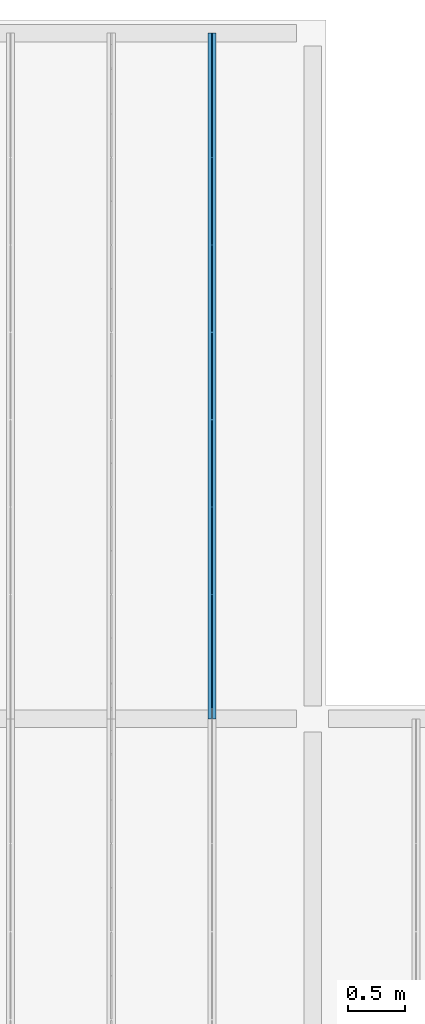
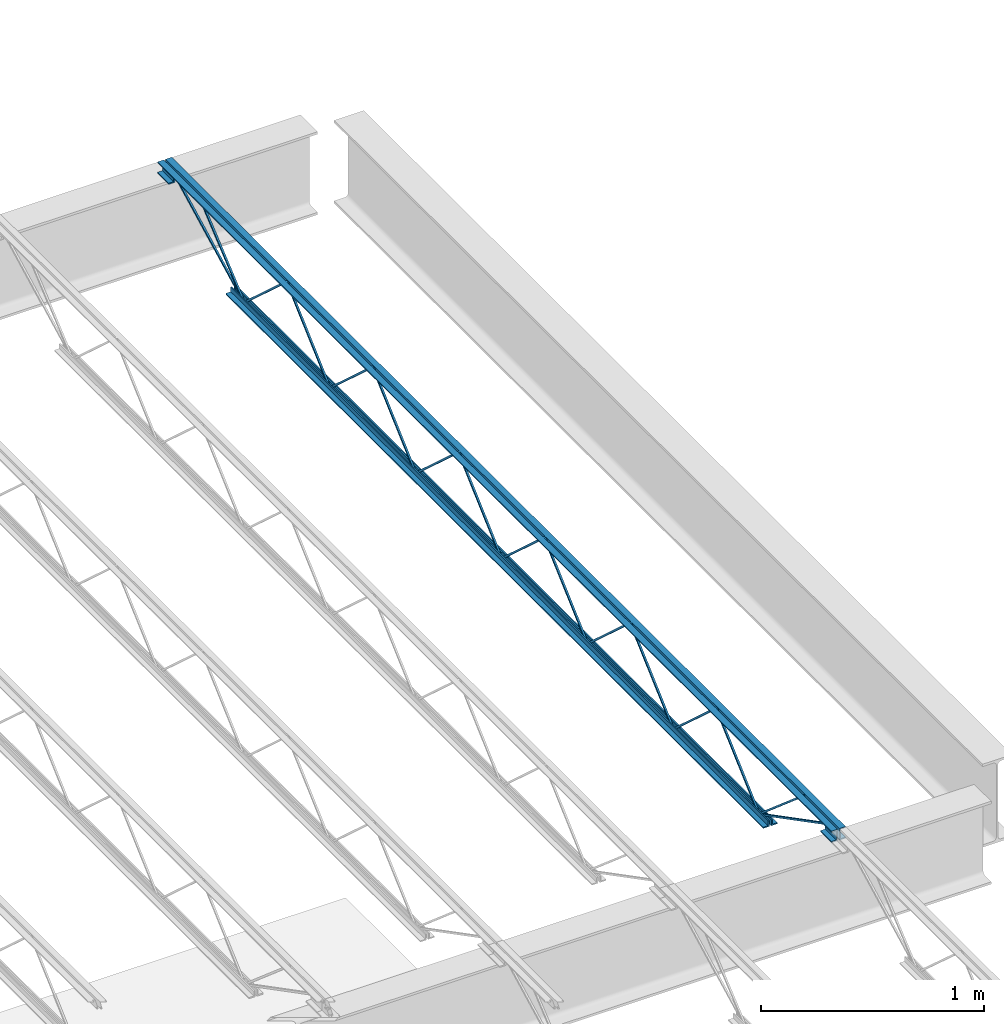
# One storey, part 55 of 75: 1 beam.
"""IFC2X3 building model written with IfcOpenShell, lengths in metres."""

from ifc_helpers import new_model, entity, si_unit, converted_unit, frame, origin, place, context, project, spatial, face_set, surface_model, element, save


model = new_model("IFC2X3")

# Units and contexts
model_context = context("Model", 3, precision=1e-09, world=origin())
plan_context = context("Plan", 3, precision=1e-09, world=origin())
ifc_project = project(units=[si_unit("LENGTHUNIT", "METRE"), si_unit("AREAUNIT", "SQUARE_METRE"), si_unit("VOLUMEUNIT", "CUBIC_METRE"), converted_unit("PLANEANGLEUNIT", "DEGREE", entity("IfcRatioMeasure", 0.01745329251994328), si_unit("PLANEANGLEUNIT", "RADIAN"), dimensions=[0, 0, 0, 0, 0, 0, 0]), si_unit("TIMEUNIT", "SECOND")], contexts=[model_context, plan_context])

# Site, building, storey
site_placement = place(None, origin())
site = spatial("IfcSite", under=ifc_project, at=site_placement, Name="Default", CompositionType="ELEMENT")
building_placement = place(site_placement, origin())
building = spatial("IfcBuilding", under=site, at=building_placement, CompositionType="ELEMENT")
storey_placement = place(building_placement, origin())
storey = spatial("IfcBuildingStorey", under=building, at=storey_placement, Name="First Floor", CompositionType="ELEMENT", Elevation=-3.531500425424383e-13)

# Beam
beam_placement = place(storey_placement, frame((-27.36549999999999, 50.09, 4.112000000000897), z_axis=(0.0, 0.0, 1.0), x_axis=(-1.0, 0.0, 0.0)))
element("IfcBeam", 1, at=beam_placement, inside=storey, Name="M_K-Series Bar Joist-Rod Web:14K1:14K1", ObjectType="M_K-Series Bar Joist-Rod Web:14K1", context=model_context, shape_type="SurfaceModel", body=[
    surface_model("IfcFaceBasedSurfaceModel", [(-0.03200000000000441, -2.254000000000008, 0.01110000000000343), (-0.04150000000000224, -2.254000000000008, 0.01110000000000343), (-0.04150000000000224, -2.254000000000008, 0.001600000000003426), (-0.03200000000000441, -2.254000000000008, 0.001600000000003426), (-0.04150000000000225, -2.252655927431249, 0.01110000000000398), (-0.03200000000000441, -2.252655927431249, 0.01110000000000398), (-0.04150000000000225, -2.248994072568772, 0.001600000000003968), (-0.04150000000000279, -1.869844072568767, 0.3449000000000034), (-0.0415000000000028, -1.86715592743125, 0.3449000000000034), (-0.04149999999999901, -1.48800592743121, 0.001600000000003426), (-0.04149999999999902, -1.483000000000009, 0.001600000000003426), (-0.04150000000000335, -1.483000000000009, 0.01110000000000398), (-0.04150000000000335, -1.484344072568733, 0.01110000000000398), (-0.04150000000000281, -1.863494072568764, 0.3544000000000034), (-0.04150000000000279, -1.873505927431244, 0.3544000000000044), (-0.03200000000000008, -2.248994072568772, 0.001600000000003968), (-0.03200000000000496, -1.869844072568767, 0.3449000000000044), (-0.03200000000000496, -1.86715592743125, 0.3449000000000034), (-0.0320000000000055, -1.48800592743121, 0.001600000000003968), (-0.03200000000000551, -1.483000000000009, 0.001600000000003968), (-0.03200000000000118, -1.483000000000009, 0.01110000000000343), (-0.03200000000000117, -1.484344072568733, 0.01110000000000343), (-0.03200000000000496, -1.863494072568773, 0.3544000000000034), (-0.03200000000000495, -1.873505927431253, 0.3544000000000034), (-0.0320000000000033, -3.025000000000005, 0.01110000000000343), (-0.04150000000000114, -3.025000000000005, 0.01110000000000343), (-0.04150000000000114, -3.025000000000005, 0.001600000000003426), (-0.0320000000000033, -3.025000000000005, 0.001600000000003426), (-0.04150000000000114, -3.023655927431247, 0.01110000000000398), (-0.0320000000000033, -3.023655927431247, 0.01110000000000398), (-0.04150000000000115, -3.01999407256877, 0.001600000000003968), (-0.04150000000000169, -2.640844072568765, 0.3449000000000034), (-0.04150000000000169, -2.638155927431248, 0.3449000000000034), (-0.04150000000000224, -2.259005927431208, 0.001600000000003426), (-0.04150000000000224, -2.254000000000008, 0.01110000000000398), (-0.04150000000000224, -2.255344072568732, 0.01110000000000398), (-0.0415000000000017, -2.634494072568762, 0.3544000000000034), (-0.04150000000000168, -2.644505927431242, 0.3544000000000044), (-0.03199999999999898, -3.01999407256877, 0.001600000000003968), (-0.03200000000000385, -2.640844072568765, 0.3449000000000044), (-0.03200000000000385, -2.638155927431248, 0.3449000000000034), (-0.03200000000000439, -2.259005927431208, 0.001600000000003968), (-0.03200000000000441, -2.254000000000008, 0.001600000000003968), (-0.0320000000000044, -2.255344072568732, 0.01110000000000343), (-0.03200000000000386, -2.634494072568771, 0.3544000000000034), (-0.03200000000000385, -2.644505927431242, 0.3544000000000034), (-0.03200000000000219, -3.796000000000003, 0.01110000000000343), (-0.04150000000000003, -3.796000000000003, 0.01110000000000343), (-0.04150000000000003, -3.796000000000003, 0.001600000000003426), (-0.03200000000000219, -3.796000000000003, 0.001600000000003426), (-0.04150000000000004, -3.794655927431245, 0.01110000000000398), (-0.03200000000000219, -3.794655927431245, 0.01110000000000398), (-0.04150000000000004, -3.790994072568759, 0.001600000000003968), (-0.04150000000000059, -3.411844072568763, 0.3449000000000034), (-0.04150000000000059, -3.409155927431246, 0.3449000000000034), (-0.04150000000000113, -3.030005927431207, 0.001600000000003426), (-0.04150000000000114, -3.025000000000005, 0.01110000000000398), (-0.04150000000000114, -3.026344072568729, 0.01110000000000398), (-0.0415000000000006, -3.40549407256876, 0.3544000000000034), (-0.04150000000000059, -3.41550592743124, 0.3544000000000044), (-0.03199999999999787, -3.790994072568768, 0.001600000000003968), (-0.03200000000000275, -3.411844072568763, 0.3449000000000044), (-0.03200000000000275, -3.409155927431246, 0.3449000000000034), (-0.03200000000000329, -3.030005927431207, 0.001600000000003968), (-0.0320000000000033, -3.025000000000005, 0.001600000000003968), (-0.0320000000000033, -3.026344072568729, 0.01110000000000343), (-0.03200000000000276, -3.40549407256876, 0.3544000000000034), (-0.03200000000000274, -3.41550592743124, 0.3544000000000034), (-0.03200000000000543, -4.567000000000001, 0.01110000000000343), (-0.04150000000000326, -4.567000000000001, 0.01110000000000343), (-0.04150000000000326, -4.567000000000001, 0.001600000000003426), (-0.03200000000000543, -4.567000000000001, 0.001600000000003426), (-0.04150000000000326, -4.565655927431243, 0.01110000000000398), (-0.03200000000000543, -4.565655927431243, 0.01110000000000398), (-0.04150000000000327, -4.561994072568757, 0.001600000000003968), (-0.04149999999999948, -4.182844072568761, 0.3449000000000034), (-0.04149999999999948, -4.180155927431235, 0.3449000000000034), (-0.04150000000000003, -3.801005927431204, 0.001600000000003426), (-0.04150000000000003, -3.795999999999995, 0.001600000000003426), (-0.04150000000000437, -3.796000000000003, 0.01110000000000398), (-0.04150000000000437, -3.797344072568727, 0.01110000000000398), (-0.04150000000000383, -4.176494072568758, 0.3544000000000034), (-0.04150000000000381, -4.186505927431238, 0.3544000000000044), (-0.0320000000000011, -4.561994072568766, 0.001600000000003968), (-0.03200000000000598, -4.182844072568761, 0.3449000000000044), (-0.03200000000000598, -4.180155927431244, 0.3449000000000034), (-0.03200000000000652, -3.801005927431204, 0.001600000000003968), (-0.03200000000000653, -3.796000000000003, 0.001600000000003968), (-0.03200000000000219, -3.795999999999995, 0.01110000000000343), (-0.03200000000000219, -3.797344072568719, 0.01110000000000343), (-0.03200000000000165, -4.176494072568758, 0.3544000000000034), (-0.03200000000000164, -4.186505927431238, 0.3544000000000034), (-0.03200000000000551, -1.483000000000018, 0.01109999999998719), (-0.04150000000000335, -1.483000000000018, 0.01109999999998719), (-0.04150000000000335, -1.483000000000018, 0.001599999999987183), (-0.03200000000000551, -1.483000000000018, 0.001599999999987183), (-0.04149999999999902, -1.48165592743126, 0.01109999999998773), (-0.03200000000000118, -1.48165592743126, 0.01109999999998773), (-0.04150000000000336, -1.477994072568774, 0.001599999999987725), (-0.0415000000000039, -1.098844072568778, 0.3448999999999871), (-0.0415000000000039, -1.096155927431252, 0.3448999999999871), (-0.04150000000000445, -0.717005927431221, 0.001599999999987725), (-0.04150000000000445, -0.7120000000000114, 0.001599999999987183), (-0.04150000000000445, -0.7120000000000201, 0.01109999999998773), (-0.04150000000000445, -0.713344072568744, 0.01109999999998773), (-0.04150000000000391, -1.092494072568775, 0.3543999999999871), (-0.04150000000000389, -1.102505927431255, 0.3543999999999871), (-0.03200000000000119, -1.477994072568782, 0.001599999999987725), (-0.03200000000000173, -1.098844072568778, 0.3448999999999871), (-0.03200000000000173, -1.09615592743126, 0.3448999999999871), (-0.03200000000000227, -0.717005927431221, 0.001599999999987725), (-0.03200000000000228, -0.7120000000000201, 0.001599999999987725), (-0.03200000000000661, -0.7120000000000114, 0.01109999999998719), (-0.03200000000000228, -0.7133440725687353, 0.01109999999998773), (-0.03200000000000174, -1.092494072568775, 0.3543999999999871), (-0.03200000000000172, -1.102505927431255, 0.3543999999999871), (-0.03200000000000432, -5.33799999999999, 0.01110000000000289), (-0.04150000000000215, -5.33799999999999, 0.01110000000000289), (-0.04150000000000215, -5.33799999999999, 0.001600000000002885), (-0.03200000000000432, -5.33799999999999, 0.001600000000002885), (-0.04150000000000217, -5.336655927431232, 0.01110000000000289), (-0.03200000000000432, -5.336655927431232, 0.01110000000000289), (-0.04150000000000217, -5.332994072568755, 0.001600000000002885), (-0.04150000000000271, -4.95384407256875, 0.3449000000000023), (-0.04150000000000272, -4.951155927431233, 0.3449000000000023), (-0.04150000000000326, -4.572005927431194, 0.001600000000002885), (-0.04150000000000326, -4.566999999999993, 0.001600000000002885), (-0.04150000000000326, -4.566999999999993, 0.01110000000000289), (-0.04150000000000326, -4.568344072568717, 0.01110000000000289), (-0.04150000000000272, -4.947494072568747, 0.3544000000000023), (-0.04150000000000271, -4.957505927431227, 0.3544000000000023), (-0.03199999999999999, -5.332994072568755, 0.001600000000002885), (-0.03200000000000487, -4.95384407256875, 0.3449000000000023), (-0.03200000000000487, -4.951155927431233, 0.3449000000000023), (-0.03200000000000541, -4.572005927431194, 0.001600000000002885), (-0.03200000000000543, -4.566999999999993, 0.001600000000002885), (-0.03200000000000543, -4.566999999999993, 0.01110000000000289), (-0.03200000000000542, -4.568344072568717, 0.01110000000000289), (-0.03200000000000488, -4.947494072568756, 0.3544000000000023), (-0.03200000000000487, -4.957505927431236, 0.3544000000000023), (-0.04150000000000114, 0.0, 0.3559999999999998), (-0.07350000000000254, 0.0, 0.3559999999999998), (-0.07350000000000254, 0.0, 0.349499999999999), (-0.04799999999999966, 0.0, 0.349499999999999), (-0.04799999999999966, 0.0, 0.3239999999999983), (-0.04150000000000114, 0.0, 0.3239999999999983), (-0.0320000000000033, 0.0, 0.3559999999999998), (-0.0320000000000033, 0.0, 0.3239999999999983), (-0.02550000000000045, 0.0, 0.3239999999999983), (-0.02550000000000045, 0.0, 0.349499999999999), (0.0, 0.0, 0.349499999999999), (0.0, 0.0, 0.3559999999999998), (-0.04150000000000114, -6.049999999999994, 0.3559999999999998), (-0.07350000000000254, -6.049999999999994, 0.3559999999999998), (-0.07350000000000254, -6.049999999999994, 0.349499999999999), (-0.04799999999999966, -6.049999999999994, 0.349499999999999), (-0.04799999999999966, -6.049999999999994, 0.3239999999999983), (-0.04150000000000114, -6.049999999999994, 0.3239999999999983), (-0.0320000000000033, -6.049999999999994, 0.3559999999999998), (-0.0320000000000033, -6.049999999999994, 0.3239999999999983), (-0.02550000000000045, -6.049999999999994, 0.3239999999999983), (-0.02550000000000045, -6.049999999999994, 0.349499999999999), (0.0, -6.049999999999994, 0.349499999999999), (0.0, -6.049999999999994, 0.3559999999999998), (-0.03200000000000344, -5.950000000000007, 0.2924999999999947), (0.0, -5.950000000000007, 0.2924999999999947), (0.0, -5.950000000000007, 0.2989999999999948), (-0.02550000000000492, -5.950000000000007, 0.2989999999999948), (-0.02550000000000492, -5.950000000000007, 0.3239999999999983), (-0.03200000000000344, -5.950000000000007, 0.3239999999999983), (-0.07350000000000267, -5.950000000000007, 0.2924999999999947), (-0.04150000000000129, -5.950000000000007, 0.2924999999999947), (-0.04150000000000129, -5.950000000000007, 0.3239999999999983), (-0.04800000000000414, -5.950000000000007, 0.3239999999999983), (-0.04800000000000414, -5.950000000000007, 0.2989999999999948), (-0.07350000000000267, -5.950000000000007, 0.2989999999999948), (-0.0320000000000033, -6.049999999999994, 0.2924999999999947), (0.0, -6.049999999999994, 0.2924999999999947), (0.0, -6.049999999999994, 0.2989999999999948), (-0.02550000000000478, -6.049999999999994, 0.2989999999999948), (-0.02550000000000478, -6.049999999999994, 0.3239999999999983), (-0.07350000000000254, -6.049999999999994, 0.2924999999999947), (-0.04150000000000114, -6.049999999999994, 0.2924999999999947), (-0.048000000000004, -6.049999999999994, 0.3239999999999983), (-0.048000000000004, -6.049999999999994, 0.2989999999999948), (-0.07350000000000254, -6.049999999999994, 0.2989999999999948), (-0.04150000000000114, 0.0, 0.2924999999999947), (-0.048000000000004, 0.0, 0.3239999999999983), (-0.048000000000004, 0.0, 0.2989999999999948), (-0.07350000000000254, 0.0, 0.2989999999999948), (-0.07350000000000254, 0.0, 0.2924999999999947), (-0.0320000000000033, 0.0, 0.2924999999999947), (0.0, 0.0, 0.2924999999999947), (0.0, 0.0, 0.2989999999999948), (-0.02550000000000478, 0.0, 0.2989999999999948), (-0.02550000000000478, 0.0, 0.3239999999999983), (-0.04150000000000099, -0.0999999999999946, 0.2924999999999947), (-0.04150000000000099, -0.0999999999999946, 0.3239999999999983), (-0.04800000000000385, -0.0999999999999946, 0.3239999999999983), (-0.04800000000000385, -0.0999999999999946, 0.2989999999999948), (-0.07350000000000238, -0.0999999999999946, 0.2989999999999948), (-0.07350000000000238, -0.0999999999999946, 0.2924999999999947), (-0.03200000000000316, -0.0999999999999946, 0.2924999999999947), (0.0, -0.0999999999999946, 0.2924999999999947), (0.0, -0.0999999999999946, 0.2989999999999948), (-0.02550000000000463, -0.0999999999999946, 0.2989999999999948), (-0.02550000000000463, -0.0999999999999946, 0.3239999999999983), (-0.03200000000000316, -0.0999999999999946, 0.3239999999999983), (-0.04150000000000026, -0.6119999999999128, 0.0), (-0.04150000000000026, -0.6119999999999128, 0.03199999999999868), (-0.04799999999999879, -0.6119999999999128, 0.03199999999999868), (-0.04799999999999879, -0.6119999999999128, 0.006499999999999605), (-0.07350000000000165, -0.6119999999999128, 0.006499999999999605), (-0.07350000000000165, -0.6119999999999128, 0.0), (-0.03200000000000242, -0.6119999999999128, 0.0), (0.0, -0.6119999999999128, 0.0), (0.0, -0.6119999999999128, 0.006499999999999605), (-0.02549999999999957, -0.6119999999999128, 0.006499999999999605), (-0.02549999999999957, -0.6119999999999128, 0.03199999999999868), (-0.03200000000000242, -0.6119999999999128, 0.03199999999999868), (-0.04150000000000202, -5.437999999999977, 0.0), (-0.04150000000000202, -5.437999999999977, 0.03199999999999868), (-0.04800000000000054, -5.437999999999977, 0.03199999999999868), (-0.04800000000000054, -5.437999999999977, 0.006499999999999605), (-0.07350000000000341, -5.437999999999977, 0.006499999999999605), (-0.07350000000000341, -5.437999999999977, 0.0), (-0.03200000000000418, -5.437999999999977, 0.0), (0.0, -5.437999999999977, 0.0), (0.0, -5.437999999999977, 0.006499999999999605), (-0.02550000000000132, -5.437999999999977, 0.006499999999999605), (-0.02550000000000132, -5.437999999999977, 0.03199999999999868), (-0.03200000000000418, -5.437999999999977, 0.03199999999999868), (-0.03200000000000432, -5.335811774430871, 0.01056594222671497), (-0.04150000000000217, -5.335811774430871, 0.01056594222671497), (-0.04150000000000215, -5.34018822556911, 0.002134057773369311), (-0.03200000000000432, -5.34018822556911, 0.002134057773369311), (-0.03200000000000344, -5.948840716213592, 0.3287499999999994), (-0.0320000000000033, -6.049999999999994, 0.3287499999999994), (-0.0320000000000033, -6.049999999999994, 0.3192499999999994), (-0.03200000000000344, -5.951159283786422, 0.3192499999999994), (-0.04150000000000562, -5.951159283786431, 0.3192499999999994), (-0.04150000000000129, -5.948840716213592, 0.3287499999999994), (-0.04150000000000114, -6.049999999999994, 0.3287499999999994), (-0.04150000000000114, -6.049999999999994, 0.3192499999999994), (-0.03200000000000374, -5.743457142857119, 0.341700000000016), (-0.04150000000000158, -5.743457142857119, 0.341700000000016), (-0.04150000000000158, -5.743457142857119, 0.332200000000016), (-0.03200000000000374, -5.743457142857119, 0.332200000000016), (-0.0415000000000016, -5.729024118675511, 0.341700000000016), (-0.03200000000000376, -5.729024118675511, 0.341700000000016), (-0.0415000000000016, -5.732490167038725, 0.332200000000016), (-0.04150000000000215, -5.341058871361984, 0.002716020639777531), (-0.04150000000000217, -5.334941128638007, 0.009983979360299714), (-0.03199999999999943, -5.732490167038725, 0.332200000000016), (-0.03200000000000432, -5.341058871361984, 0.002716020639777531), (-0.03200000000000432, -5.334941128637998, 0.009983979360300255), (-0.03200000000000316, -0.09781177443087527, 0.3197840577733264), (-0.03200000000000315, -0.1021882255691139, 0.3282159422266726), (-0.04150000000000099, -0.1021882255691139, 0.3282159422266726), (-0.04150000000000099, -0.09781177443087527, 0.3197840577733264), (-0.03200000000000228, -0.7098117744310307, 0.002134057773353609), (-0.03200000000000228, -0.7141882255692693, 0.01056594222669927), (-0.04150000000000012, -0.7141882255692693, 0.01056594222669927), (-0.04150000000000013, -0.7098117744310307, 0.002134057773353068), (-0.03200000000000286, -0.3088922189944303, 0.3460454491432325), (-0.03200000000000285, -0.3150792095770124, 0.3532545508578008), (-0.04150000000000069, -0.3150792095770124, 0.3532545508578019), (-0.0415000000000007, -0.3088922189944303, 0.3460454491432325), (-0.03200000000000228, -0.7089065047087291, 0.002745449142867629), (-0.03200000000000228, -0.715093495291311, 0.009954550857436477), (-0.04150000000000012, -0.715093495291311, 0.009954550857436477), (-0.04150000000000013, -0.7089065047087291, 0.002745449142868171)], [face_set([[[0, 1, 2, 3]], [[1, 4, 5, 0]], [[2, 6, 7, 8, 9, 10, 11, 12, 13, 14, 4, 1]], [[3, 2, 6, 15]], [[0, 3, 15, 16, 17, 18, 19, 20, 21, 22, 23, 5]], [[4, 5, 23, 14]], [[15, 16, 7, 6]], [[14, 13, 22, 23]], [[16, 7, 8, 17]], [[13, 12, 21, 22]], [[17, 8, 9, 18]], [[20, 11, 10, 19]], [[12, 11, 20, 21]], [[18, 9, 10, 19]]]), face_set([[[24, 25, 26, 27]], [[25, 28, 29, 24]], [[26, 30, 31, 32, 33, 2, 34, 35, 36, 37, 28, 25]], [[27, 26, 30, 38]], [[24, 27, 38, 39, 40, 41, 42, 0, 43, 44, 45, 29]], [[28, 29, 45, 37]], [[38, 39, 31, 30]], [[37, 36, 44, 45]], [[39, 31, 32, 40]], [[36, 35, 43, 44]], [[40, 32, 33, 41]], [[0, 34, 2, 42]], [[35, 34, 0, 43]], [[41, 33, 2, 42]]]), face_set([[[46, 47, 48, 49]], [[47, 50, 51, 46]], [[48, 52, 53, 54, 55, 26, 56, 57, 58, 59, 50, 47]], [[49, 48, 52, 60]], [[46, 49, 60, 61, 62, 63, 64, 24, 65, 66, 67, 51]], [[50, 51, 67, 59]], [[60, 61, 53, 52]], [[59, 58, 66, 67]], [[61, 53, 54, 62]], [[58, 57, 65, 66]], [[62, 54, 55, 63]], [[24, 56, 26, 64]], [[57, 56, 24, 65]], [[63, 55, 26, 64]]]), face_set([[[68, 69, 70, 71]], [[69, 72, 73, 68]], [[70, 74, 75, 76, 77, 78, 79, 80, 81, 82, 72, 69]], [[71, 70, 74, 83]], [[68, 71, 83, 84, 85, 86, 87, 88, 89, 90, 91, 73]], [[72, 73, 91, 82]], [[83, 84, 75, 74]], [[82, 81, 90, 91]], [[84, 75, 76, 85]], [[81, 80, 89, 90]], [[85, 76, 77, 86]], [[88, 79, 78, 87]], [[80, 79, 88, 89]], [[86, 77, 78, 87]]]), face_set([[[92, 93, 94, 95]], [[93, 96, 97, 92]], [[94, 98, 99, 100, 101, 102, 103, 104, 105, 106, 96, 93]], [[95, 94, 98, 107]], [[92, 95, 107, 108, 109, 110, 111, 112, 113, 114, 115, 97]], [[96, 97, 115, 106]], [[107, 108, 99, 98]], [[106, 105, 114, 115]], [[108, 99, 100, 109]], [[105, 104, 113, 114]], [[109, 100, 101, 110]], [[112, 103, 102, 111]], [[104, 103, 112, 113]], [[110, 101, 102, 111]]]), face_set([[[116, 117, 118, 119]], [[117, 120, 121, 116]], [[118, 122, 123, 124, 125, 126, 127, 128, 129, 130, 120, 117]], [[119, 118, 122, 131]], [[116, 119, 131, 132, 133, 134, 135, 136, 137, 138, 139, 121]], [[120, 121, 139, 130]], [[131, 132, 123, 122]], [[130, 129, 138, 139]], [[132, 123, 124, 133]], [[129, 128, 137, 138]], [[133, 124, 125, 134]], [[136, 127, 126, 135]], [[128, 127, 136, 137]], [[134, 125, 126, 135]]]), face_set([[[140, 141, 142, 143, 144, 145]], [[146, 147, 148, 149, 150, 151]], [[152, 153, 154, 155, 156, 157]], [[158, 159, 160, 161, 162, 163]], [[145, 140, 152, 157]], [[144, 145, 157, 156]], [[143, 155, 156, 144]], [[142, 143, 155, 154]], [[141, 153, 154, 142]], [[140, 152, 153, 141]], [[151, 163, 158, 146]], [[150, 151, 163, 162]], [[149, 150, 162, 161]], [[148, 149, 161, 160]], [[147, 148, 160, 159]], [[146, 158, 159, 147]]]), face_set([[[164, 165, 166, 167, 168, 169]], [[170, 171, 172, 173, 174, 175]], [[176, 177, 178, 179, 180, 159]], [[181, 182, 157, 183, 184, 185]], [[169, 159, 176, 164]], [[168, 180, 159, 169]], [[167, 168, 180, 179]], [[166, 178, 179, 167]], [[165, 166, 178, 177]], [[164, 165, 177, 176]], [[175, 185, 181, 170]], [[174, 184, 185, 175]], [[173, 183, 184, 174]], [[172, 157, 183, 173]], [[171, 172, 157, 182]], [[170, 171, 182, 181]]]), face_set([[[186, 145, 187, 188, 189, 190]], [[191, 192, 193, 194, 195, 147]], [[196, 197, 198, 199, 200, 201]], [[202, 203, 204, 205, 206, 207]], [[190, 186, 196, 201]], [[189, 200, 201, 190]], [[188, 199, 200, 189]], [[187, 198, 199, 188]], [[145, 197, 198, 187]], [[186, 145, 197, 196]], [[147, 207, 202, 191]], [[195, 206, 207, 147]], [[194, 195, 206, 205]], [[193, 204, 205, 194]], [[192, 193, 204, 203]], [[191, 192, 203, 202]]]), face_set([[[208, 209, 210, 211, 212, 213]], [[214, 215, 216, 217, 218, 219]], [[220, 221, 222, 223, 224, 225]], [[226, 227, 228, 229, 230, 231]], [[213, 208, 220, 225]], [[212, 224, 225, 213]], [[211, 223, 224, 212]], [[210, 222, 223, 211]], [[209, 221, 222, 210]], [[208, 209, 221, 220]], [[219, 231, 226, 214]], [[218, 230, 231, 219]], [[217, 218, 230, 229]], [[216, 228, 229, 217]], [[215, 216, 228, 227]], [[214, 215, 227, 226]]]), face_set([[[232, 233, 234, 235]], [[235, 232, 236, 237, 238, 239]], [[234, 235, 239, 240]], [[233, 241, 242, 243, 240, 234]], [[232, 236, 241, 233]], [[237, 242, 243, 238]], [[240, 239, 238, 243]], [[236, 237, 242, 241]]]), face_set([[[244, 245, 246, 247]], [[245, 248, 249, 244]], [[246, 250, 251, 252, 248, 245]], [[247, 246, 250, 253]], [[244, 247, 253, 254, 255, 249]], [[255, 252, 251, 254]], [[248, 252, 255, 249]], [[253, 250, 251, 254]]]), face_set([[[256, 257, 258, 259]], [[260, 261, 262, 263]], [[259, 263, 260, 256]], [[258, 262, 263, 259]], [[257, 258, 262, 261]], [[256, 257, 261, 260]]]), face_set([[[264, 265, 266, 267]], [[268, 269, 270, 271]], [[267, 271, 268, 264]], [[266, 270, 271, 267]], [[265, 266, 270, 269]], [[264, 265, 269, 268]]])]),
])

save(model, "model.ifc")
